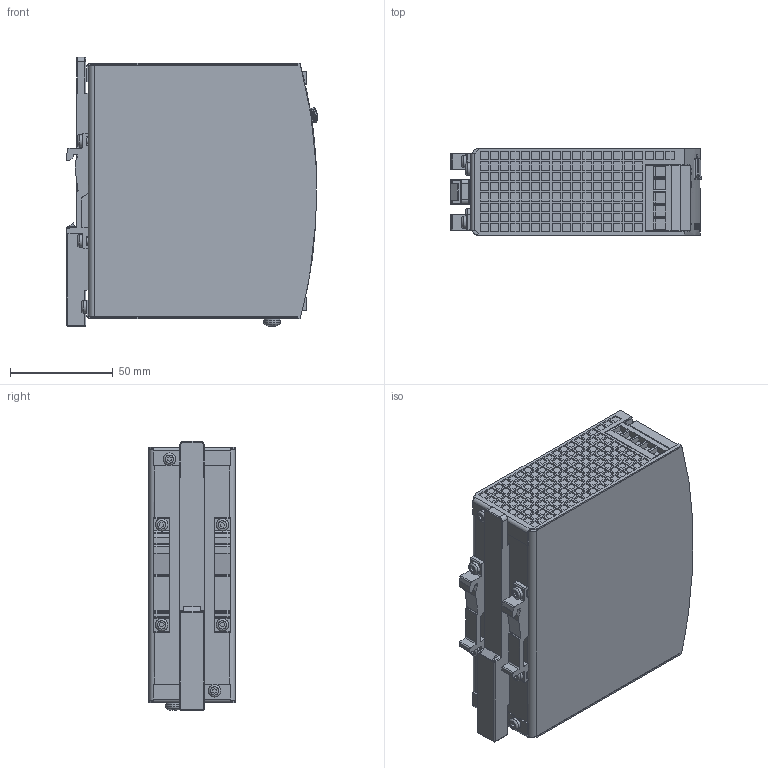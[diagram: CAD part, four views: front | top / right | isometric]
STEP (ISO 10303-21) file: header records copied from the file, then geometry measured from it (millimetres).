
FILE_DESCRIPTION(/* description */ ('PS 42x124x117'),/* implementation_level */ '2;1');
FILE_NAME(/* name */ 'C:\Users\Frankwe\Desktop\Neuer Ordner\0000016743_PS9731-2410-0000_2023-10-18.stp',/* time_stamp */ '2023-10-18T08:40:46+02:00',/* author */ ('FrankWe'),/* organization */ (''),/* preprocessor_version */ 'ST-DEVELOPER v18.1',/* originating_system */ 'Autodesk Inventor 2022',/* authorisation */ '');
FILE_SCHEMA (('AUTOMOTIVE_DESIGN { 1 0 10303 214 3 1 1 }'));
Products named in the file (1): 0000016743_PS9731-2410-0000_mit_Aufkleber
Bounding box: 121.97 x 42 x 130.77 mm (x, y, z)
Volume: 566189 mm3; surface area: 79542.5 mm2
Topology: 3 solids, 6 shells, 2356 faces, 6723 edges, 4441 vertices
Faces by surface type: plane 1907, cylinder 244, bspline 157, torus 23, sphere 13, cone 12
Full cylindrical faces by diameter (mm): 1.2 x2, 3 x12, 3.1 x4, 3.375 x1, 3.621 x1, 3.85 x1, 4 x1, 4.355 x1, 4.6 x1, 5.15 x8, 6 x6
Entity records: 85419 total; most frequent: CARTESIAN_POINT 21264, ORIENTED_EDGE 13458, DIRECTION 11523, EDGE_CURVE 6729, LINE 5577, VECTOR 5577, VERTEX_POINT 4458, EDGE_LOOP 3033
